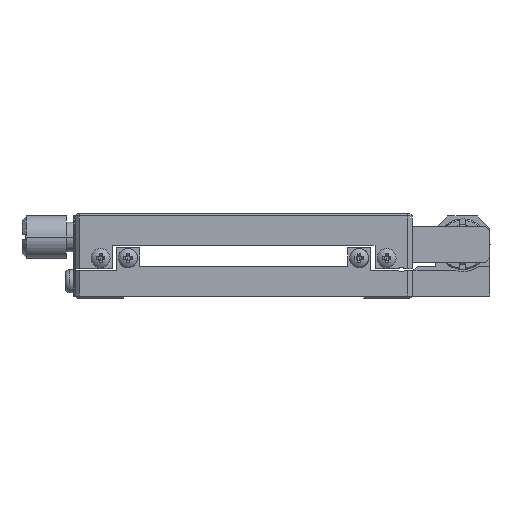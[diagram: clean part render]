
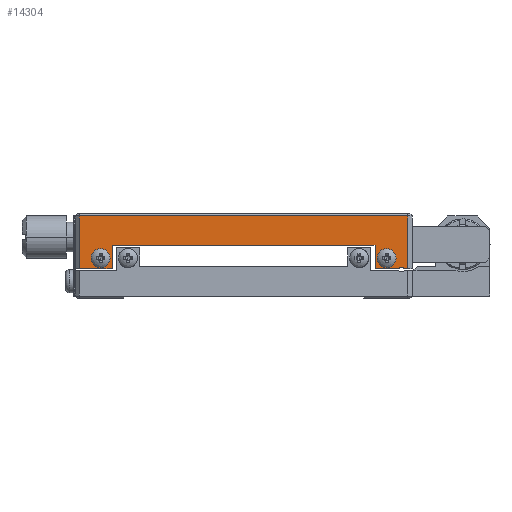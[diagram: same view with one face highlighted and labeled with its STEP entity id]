
A CAD part, left-side view. The second image highlights one B-rep face of the part: STEP entity #14304.
In plain terms, the highlighted planar face has unit normal (-1, 0, 0).
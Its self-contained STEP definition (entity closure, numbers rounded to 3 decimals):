
#506 = DIRECTION ( 'NONE',  ( 0., 0., 1. ) ) ;
#507 = CARTESIAN_POINT ( 'NONE',  ( -118.659, 28.661, 0. ) ) ;
#509 = DIRECTION ( 'NONE',  ( 0., 0., -1. ) ) ;
#516 = CARTESIAN_POINT ( 'NONE',  ( -118.659, 35.661, 0. ) ) ;
#695 = DIRECTION ( 'NONE',  ( 0., -1., 0. ) ) ;
#707 = DIRECTION ( 'NONE',  ( 0., 1., 0. ) ) ;
#709 = CARTESIAN_POINT ( 'NONE',  ( -118.659, 29.411, -31.2 ) ) ;
#721 = CARTESIAN_POINT ( 'NONE',  ( -118.659, 29.411, 31.2 ) ) ;
#730 = DIRECTION ( 'NONE',  ( 0., -1., 0. ) ) ;
#734 = CARTESIAN_POINT ( 'NONE',  ( -118.659, 29.411, 39. ) ) ;
#735 = DIRECTION ( 'NONE',  ( 0., 0., -1. ) ) ;
#736 = CARTESIAN_POINT ( 'NONE',  ( -118.659, 23.161, 0. ) ) ;
#770 = DIRECTION ( 'NONE',  ( 0., 0., -1. ) ) ;
#771 = CARTESIAN_POINT ( 'NONE',  ( -118.659, 23.161, 0. ) ) ;
#797 = CARTESIAN_POINT ( 'NONE',  ( -118.659, 23.161, 0. ) ) ;
#800 = DIRECTION ( 'NONE',  ( 0., 1., 0. ) ) ;
#803 = CARTESIAN_POINT ( 'NONE',  ( -118.659, 29.411, -39. ) ) ;
#805 = DIRECTION ( 'NONE',  ( 0., 0., -1. ) ) ;
#806 = DIRECTION ( 'NONE',  ( 0., 0., 1. ) ) ;
#807 = DIRECTION ( 'NONE',  ( -1., 0., 0. ) ) ;
#808 = CARTESIAN_POINT ( 'NONE',  ( -118.659, 25.661, 33.95 ) ) ;
#812 = DIRECTION ( 'NONE',  ( 0., 0., 1. ) ) ;
#814 = DIRECTION ( 'NONE',  ( -1., 0., 0. ) ) ;
#816 = CARTESIAN_POINT ( 'NONE',  ( -118.659, 25.661, -33.95 ) ) ;
#1388 = CARTESIAN_POINT ( 'NONE',  ( -118.659, 25.661, -36.2 ) ) ;
#1487 = CARTESIAN_POINT ( 'NONE',  ( -118.659, 25.661, 31.7 ) ) ;
#2560 = CARTESIAN_POINT ( 'NONE',  ( -118.659, 25.661, 36.2 ) ) ;
#3049 = AXIS2_PLACEMENT_3D ( 'NONE', #22521, #22518, #22517 ) ;
#3050 = AXIS2_PLACEMENT_3D ( 'NONE', #816, #814, #812 ) ;
#3051 = AXIS2_PLACEMENT_3D ( 'NONE', #808, #807, #806 ) ;
#3276 = EDGE_CURVE ( 'NONE', #17041, #17021, #14847, .T. ) ;
#3296 = EDGE_CURVE ( 'NONE', #5255, #19864, #14886, .T. ) ;
#3297 = EDGE_CURVE ( 'NONE', #5204, #5328, #14881, .T. ) ;
#3300 = EDGE_CURVE ( 'NONE', #17001, #17119, #14889, .T. ) ;
#3303 = EDGE_CURVE ( 'NONE', #17041, #16990, #14895, .T. ) ;
#3310 = EDGE_CURVE ( 'NONE', #17105, #17001, #14908, .T. ) ;
#3323 = EDGE_CURVE ( 'NONE', #16986, #17021, #14932, .T. ) ;
#3324 = EDGE_CURVE ( 'NONE', #17107, #16986, #14934, .T. ) ;
#3335 = EDGE_CURVE ( 'NONE', #16990, #16969, #14952, .T. ) ;
#3339 = EDGE_CURVE ( 'NONE', #17094, #17105, #14958, .T. ) ;
#3374 = EDGE_CURVE ( 'NONE', #17107, #17119, #14997, .T. ) ;
#3375 = EDGE_CURVE ( 'NONE', #17094, #16969, #14999, .T. ) ;
#3697 = AXIS2_PLACEMENT_3D ( 'NONE', #21988, #21990, #21984 ) ;
#5204 = VERTEX_POINT ( 'NONE', #1487 ) ;
#5255 = VERTEX_POINT ( 'NONE', #1388 ) ;
#5328 = VERTEX_POINT ( 'NONE', #2560 ) ;
#10408 = AXIS2_PLACEMENT_3D ( 'NONE', #16721, #16722, #16723 ) ;
#10412 = AXIS2_PLACEMENT_3D ( 'NONE', #16739, #16740, #16741 ) ;
#10578 = ORIENTED_EDGE ( 'NONE', *, *, #21250, .F. ) ;
#10579 = ORIENTED_EDGE ( 'NONE', *, *, #3296, .F. ) ;
#10580 = ORIENTED_EDGE ( 'NONE', *, *, #3303, .F. ) ;
#10581 = ORIENTED_EDGE ( 'NONE', *, *, #3276, .T. ) ;
#10582 = ORIENTED_EDGE ( 'NONE', *, *, #3323, .F. ) ;
#10583 = ORIENTED_EDGE ( 'NONE', *, *, #3300, .F. ) ;
#10584 = ORIENTED_EDGE ( 'NONE', *, *, #3310, .F. ) ;
#10585 = ORIENTED_EDGE ( 'NONE', *, *, #3339, .F. ) ;
#10586 = ORIENTED_EDGE ( 'NONE', *, *, #3375, .T. ) ;
#10862 = ORIENTED_EDGE ( 'NONE', *, *, #3335, .F. ) ;
#10872 = ORIENTED_EDGE ( 'NONE', *, *, #3374, .T. ) ;
#10873 = ORIENTED_EDGE ( 'NONE', *, *, #3324, .F. ) ;
#10882 = ORIENTED_EDGE ( 'NONE', *, *, #21244, .F. ) ;
#10883 = ORIENTED_EDGE ( 'NONE', *, *, #3297, .F. ) ;
#12636 = CIRCLE ( 'NONE', #10408, 2.25 ) ;
#12649 = CIRCLE ( 'NONE', #10412, 2.25 ) ;
#14304 = ADVANCED_FACE ( 'NONE', ( #15598, #15608, #15604 ), #21986, .F. ) ;
#14847 = CIRCLE ( 'NONE', #3049, 1. ) ;
#14881 = CIRCLE ( 'NONE', #3051, 2.25 ) ;
#14886 = CIRCLE ( 'NONE', #3050, 2.25 ) ;
#14889 = LINE ( 'NONE', #803, #14892 ) ;
#14892 = VECTOR ( 'NONE', #800, 1000. ) ;
#14895 = LINE ( 'NONE', #797, #14897 ) ;
#14897 = VECTOR ( 'NONE', #805, 1000. ) ;
#14908 = LINE ( 'NONE', #771, #14911 ) ;
#14911 = VECTOR ( 'NONE', #770, 1000. ) ;
#14932 = LINE ( 'NONE', #736, #14935 ) ;
#14934 = LINE ( 'NONE', #734, #14937 ) ;
#14935 = VECTOR ( 'NONE', #735, 1000. ) ;
#14937 = VECTOR ( 'NONE', #730, 1000. ) ;
#14952 = LINE ( 'NONE', #721, #14959 ) ;
#14958 = LINE ( 'NONE', #709, #14967 ) ;
#14959 = VECTOR ( 'NONE', #707, 1000. ) ;
#14967 = VECTOR ( 'NONE', #695, 1000. ) ;
#14997 = LINE ( 'NONE', #516, #15001 ) ;
#14999 = LINE ( 'NONE', #507, #15004 ) ;
#15001 = VECTOR ( 'NONE', #509, 1000. ) ;
#15004 = VECTOR ( 'NONE', #506, 1000. ) ;
#15598 = FACE_BOUND ( 'NONE', #22092, .T. ) ;
#15604 = FACE_OUTER_BOUND ( 'NONE', #22434, .T. ) ;
#15608 = FACE_BOUND ( 'NONE', #22179, .T. ) ;
#16721 = CARTESIAN_POINT ( 'NONE',  ( -118.659, 25.661, -33.95 ) ) ;
#16722 = DIRECTION ( 'NONE',  ( -1., 0., 0. ) ) ;
#16723 = DIRECTION ( 'NONE',  ( 0., 0., 1. ) ) ;
#16739 = CARTESIAN_POINT ( 'NONE',  ( -118.659, 25.661, 33.95 ) ) ;
#16740 = DIRECTION ( 'NONE',  ( -1., 0., 0. ) ) ;
#16741 = DIRECTION ( 'NONE',  ( 0., 0., 1. ) ) ;
#16969 = VERTEX_POINT ( 'NONE', #18648 ) ;
#16986 = VERTEX_POINT ( 'NONE', #18677 ) ;
#16990 = VERTEX_POINT ( 'NONE', #18681 ) ;
#17001 = VERTEX_POINT ( 'NONE', #18692 ) ;
#17021 = VERTEX_POINT ( 'NONE', #18710 ) ;
#17041 = VERTEX_POINT ( 'NONE', #18725 ) ;
#17094 = VERTEX_POINT ( 'NONE', #18767 ) ;
#17105 = VERTEX_POINT ( 'NONE', #18776 ) ;
#17107 = VERTEX_POINT ( 'NONE', #18778 ) ;
#17119 = VERTEX_POINT ( 'NONE', #18781 ) ;
#18648 = CARTESIAN_POINT ( 'NONE',  ( -118.659, 28.661, 31.2 ) ) ;
#18677 = CARTESIAN_POINT ( 'NONE',  ( -118.659, 23.161, 39. ) ) ;
#18681 = CARTESIAN_POINT ( 'NONE',  ( -118.659, 23.161, 31.2 ) ) ;
#18692 = CARTESIAN_POINT ( 'NONE',  ( -118.659, 23.161, -39. ) ) ;
#18710 = CARTESIAN_POINT ( 'NONE',  ( -118.659, 23.161, 38.161 ) ) ;
#18725 = CARTESIAN_POINT ( 'NONE',  ( -118.659, 23.161, 36.839 ) ) ;
#18767 = CARTESIAN_POINT ( 'NONE',  ( -118.659, 28.661, -31.2 ) ) ;
#18776 = CARTESIAN_POINT ( 'NONE',  ( -118.659, 23.161, -31.2 ) ) ;
#18778 = CARTESIAN_POINT ( 'NONE',  ( -118.659, 35.661, 39. ) ) ;
#18781 = CARTESIAN_POINT ( 'NONE',  ( -118.659, 35.661, -39. ) ) ;
#19060 = CARTESIAN_POINT ( 'NONE',  ( -118.659, 25.661, -31.7 ) ) ;
#19864 = VERTEX_POINT ( 'NONE', #19060 ) ;
#21244 = EDGE_CURVE ( 'NONE', #19864, #5255, #12636, .T. ) ;
#21250 = EDGE_CURVE ( 'NONE', #5328, #5204, #12649, .T. ) ;
#21984 = DIRECTION ( 'NONE',  ( 0., 0., -1. ) ) ;
#21986 = PLANE ( 'NONE',  #3697 ) ;
#21988 = CARTESIAN_POINT ( 'NONE',  ( -118.659, 23.161, 39. ) ) ;
#21990 = DIRECTION ( 'NONE',  ( 1., 0., 0. ) ) ;
#22092 = EDGE_LOOP ( 'NONE', ( #10578, #10883 ) ) ;
#22179 = EDGE_LOOP ( 'NONE', ( #10882, #10579 ) ) ;
#22434 = EDGE_LOOP ( 'NONE', ( #10580, #10581, #10582, #10873, #10872, #10583, #10584, #10585, #10586, #10862 ) ) ;
#22517 = DIRECTION ( 'NONE',  ( 0., 0., -1. ) ) ;
#22518 = DIRECTION ( 'NONE',  ( 1., 0., 0. ) ) ;
#22521 = CARTESIAN_POINT ( 'NONE',  ( -118.659, 22.411, 37.5 ) ) ;
